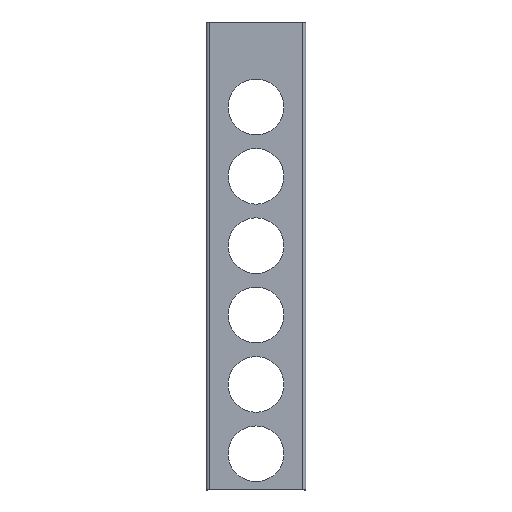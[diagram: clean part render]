
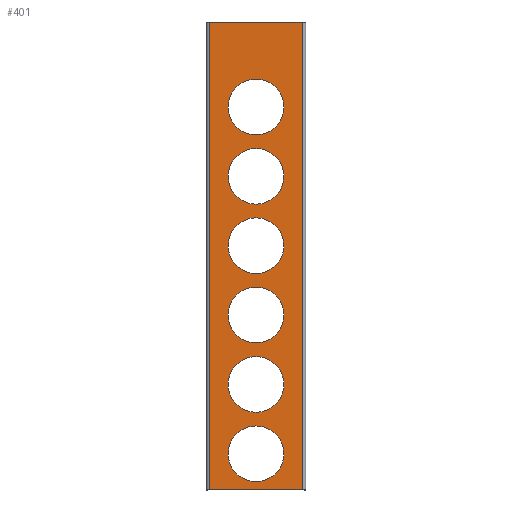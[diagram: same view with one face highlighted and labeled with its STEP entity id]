
A CAD part, top view. The second image highlights one B-rep face of the part: STEP entity #401.
In plain terms, the highlighted planar face has unit normal (0, 0, 1).
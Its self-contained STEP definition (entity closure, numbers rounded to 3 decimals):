
#3 = DIRECTION ( 'NONE',  ( 0., 0., -1. ) ) ;
#5 = DIRECTION ( 'NONE',  ( 1., 0., 0. ) ) ;
#8 = DIRECTION ( 'NONE',  ( 0., 0., -1. ) ) ;
#28 = DIRECTION ( 'NONE',  ( 1., 0., 0. ) ) ;
#34 = DIRECTION ( 'NONE',  ( 0., 0., -1. ) ) ;
#41 = DIRECTION ( 'NONE',  ( -1., 0., 0. ) ) ;
#44 = CARTESIAN_POINT ( 'NONE',  ( 47., 479., 40. ) ) ;
#64 = DIRECTION ( 'NONE',  ( 0., 0., -1. ) ) ;
#65 = CARTESIAN_POINT ( 'NONE',  ( -47., 0., 40. ) ) ;
#82 = DIRECTION ( 'NONE',  ( 1., 0., 0. ) ) ;
#85 = CARTESIAN_POINT ( 'NONE',  ( 0., 108., 40. ) ) ;
#86 = DIRECTION ( 'NONE',  ( 1., 0., 0. ) ) ;
#88 = DIRECTION ( 'NONE',  ( 1., 0., 0. ) ) ;
#90 = CARTESIAN_POINT ( 'NONE',  ( 0., 250., 40. ) ) ;
#93 = DIRECTION ( 'NONE',  ( 0., 0., -1. ) ) ;
#94 = CARTESIAN_POINT ( 'NONE',  ( 0., 179., 40. ) ) ;
#102 = DIRECTION ( 'NONE',  ( 0., 0., -1. ) ) ;
#105 = DIRECTION ( 'NONE',  ( 0., 0., -1. ) ) ;
#109 = DIRECTION ( 'NONE',  ( 1., 0., 0. ) ) ;
#110 = DIRECTION ( 'NONE',  ( 1., 0., 0. ) ) ;
#111 = CARTESIAN_POINT ( 'NONE',  ( -28.5, 321., 40. ) ) ;
#115 = CARTESIAN_POINT ( 'NONE',  ( 0., 321., 40. ) ) ;
#117 = CARTESIAN_POINT ( 'NONE',  ( 0., 392., 40. ) ) ;
#121 = CARTESIAN_POINT ( 'NONE',  ( -48., 479., 40. ) ) ;
#126 = CARTESIAN_POINT ( 'NONE',  ( 0., 321., 40. ) ) ;
#127 = DIRECTION ( 'NONE',  ( 1., 0., 0. ) ) ;
#128 = DIRECTION ( 'NONE',  ( 1., 0., 0. ) ) ;
#130 = DIRECTION ( 'NONE',  ( 0., -1., 0. ) ) ;
#137 = CARTESIAN_POINT ( 'NONE',  ( 0., 250., 40. ) ) ;
#140 = CARTESIAN_POINT ( 'NONE',  ( 0., 37., 40. ) ) ;
#141 = DIRECTION ( 'NONE',  ( 0., 0., -1. ) ) ;
#144 = DIRECTION ( 'NONE',  ( 0., 0., -1. ) ) ;
#147 = DIRECTION ( 'NONE',  ( 1., 0., 0. ) ) ;
#153 = DIRECTION ( 'NONE',  ( 0., 0., -1. ) ) ;
#173 = VERTEX_POINT ( 'NONE', #214 ) ;
#176 = VERTEX_POINT ( 'NONE', #326 ) ;
#179 = VERTEX_POINT ( 'NONE', #304 ) ;
#181 = VERTEX_POINT ( 'NONE', #336 ) ;
#183 = VERTEX_POINT ( 'NONE', #251 ) ;
#195 = VERTEX_POINT ( 'NONE', #287 ) ;
#199 = VERTEX_POINT ( 'NONE', #247 ) ;
#212 = VERTEX_POINT ( 'NONE', #238 ) ;
#214 = CARTESIAN_POINT ( 'NONE',  ( 28.5, 108., 40. ) ) ;
#215 = CARTESIAN_POINT ( 'NONE',  ( 28.5, 321., 40. ) ) ;
#216 = DIRECTION ( 'NONE',  ( 1., 0., 0. ) ) ;
#217 = CARTESIAN_POINT ( 'NONE',  ( 48., 0., 40. ) ) ;
#218 = CARTESIAN_POINT ( 'NONE',  ( -48., 0., 40. ) ) ;
#220 = VERTEX_POINT ( 'NONE', #319 ) ;
#222 = VERTEX_POINT ( 'NONE', #293 ) ;
#226 = DIRECTION ( 'NONE',  ( 0., 0., -1. ) ) ;
#234 = CARTESIAN_POINT ( 'NONE',  ( 0., 179., 40. ) ) ;
#235 = VERTEX_POINT ( 'NONE', #381 ) ;
#236 = DIRECTION ( 'NONE',  ( 1., 0., 0. ) ) ;
#238 = CARTESIAN_POINT ( 'NONE',  ( -28.5, 250., 40. ) ) ;
#247 = CARTESIAN_POINT ( 'NONE',  ( 28.5, 392., 40. ) ) ;
#250 = VERTEX_POINT ( 'NONE', #218 ) ;
#251 = CARTESIAN_POINT ( 'NONE',  ( 28.5, 179., 40. ) ) ;
#266 = CARTESIAN_POINT ( 'NONE',  ( 2., 239.5, 40. ) ) ;
#271 = VERTEX_POINT ( 'NONE', #377 ) ;
#287 = CARTESIAN_POINT ( 'NONE',  ( -28.5, 179., 40. ) ) ;
#289 = PLANE ( 'NONE',  #468 ) ;
#290 = CARTESIAN_POINT ( 'NONE',  ( 0., 392., 40. ) ) ;
#292 = DIRECTION ( 'NONE',  ( 0., 0., -1. ) ) ;
#293 = CARTESIAN_POINT ( 'NONE',  ( 48., 479., 40. ) ) ;
#295 = VERTEX_POINT ( 'NONE', #217 ) ;
#299 = VERTEX_POINT ( 'NONE', #215 ) ;
#303 = DIRECTION ( 'NONE',  ( 1., 0., 0. ) ) ;
#304 = CARTESIAN_POINT ( 'NONE',  ( -48., 479., 40. ) ) ;
#311 = CARTESIAN_POINT ( 'NONE',  ( 0., 37., 40. ) ) ;
#319 = CARTESIAN_POINT ( 'NONE',  ( 28.5, 250., 40. ) ) ;
#326 = CARTESIAN_POINT ( 'NONE',  ( -28.5, 37., 40. ) ) ;
#336 = CARTESIAN_POINT ( 'NONE',  ( 28.5, 37., 40. ) ) ;
#345 = CARTESIAN_POINT ( 'NONE',  ( 0., 108., 40. ) ) ;
#347 = DIRECTION ( 'NONE',  ( 1., 0., 0. ) ) ;
#357 = DIRECTION ( 'NONE',  ( 0., 0., 1. ) ) ;
#369 = CARTESIAN_POINT ( 'NONE',  ( 48., 0., 40. ) ) ;
#371 = VERTEX_POINT ( 'NONE', #111 ) ;
#377 = CARTESIAN_POINT ( 'NONE',  ( -28.5, 392., 40. ) ) ;
#381 = CARTESIAN_POINT ( 'NONE',  ( -28.5, 108., 40. ) ) ;
#385 = DIRECTION ( 'NONE',  ( 0., -1., 0. ) ) ;
#401 = ADVANCED_FACE ( 'NONE', ( #765, #761, #759, #757, #766, #763, #760 ), #289, .T. ) ;
#427 = AXIS2_PLACEMENT_3D ( 'NONE', #115, #64, #28 ) ;
#428 = AXIS2_PLACEMENT_3D ( 'NONE', #345, #3, #216 ) ;
#429 = AXIS2_PLACEMENT_3D ( 'NONE', #137, #144, #147 ) ;
#430 = AXIS2_PLACEMENT_3D ( 'NONE', #85, #105, #88 ) ;
#431 = AXIS2_PLACEMENT_3D ( 'NONE', #117, #93, #86 ) ;
#432 = AXIS2_PLACEMENT_3D ( 'NONE', #126, #8, #127 ) ;
#433 = AXIS2_PLACEMENT_3D ( 'NONE', #140, #102, #128 ) ;
#440 = AXIS2_PLACEMENT_3D ( 'NONE', #94, #141, #110 ) ;
#449 = AXIS2_PLACEMENT_3D ( 'NONE', #90, #153, #109 ) ;
#455 = AXIS2_PLACEMENT_3D ( 'NONE', #290, #292, #303 ) ;
#468 = AXIS2_PLACEMENT_3D ( 'NONE', #266, #357, #82 ) ;
#483 = EDGE_CURVE ( 'NONE', #183, #195, #716, .T. ) ;
#486 = EDGE_CURVE ( 'NONE', #199, #271, #713, .T. ) ;
#488 = EDGE_CURVE ( 'NONE', #181, #176, #710, .T. ) ;
#496 = EDGE_CURVE ( 'NONE', #220, #212, #694, .T. ) ;
#515 = EDGE_CURVE ( 'NONE', #179, #222, #654, .T. ) ;
#517 = EDGE_CURVE ( 'NONE', #222, #295, #649, .T. ) ;
#528 = EDGE_CURVE ( 'NONE', #295, #250, #623, .T. ) ;
#541 = EDGE_CURVE ( 'NONE', #176, #181, #593, .T. ) ;
#542 = EDGE_CURVE ( 'NONE', #179, #250, #604, .T. ) ;
#543 = EDGE_CURVE ( 'NONE', #195, #183, #590, .T. ) ;
#544 = EDGE_CURVE ( 'NONE', #371, #299, #589, .T. ) ;
#545 = EDGE_CURVE ( 'NONE', #271, #199, #587, .T. ) ;
#546 = EDGE_CURVE ( 'NONE', #212, #220, #585, .T. ) ;
#548 = EDGE_CURVE ( 'NONE', #299, #371, #583, .T. ) ;
#549 = EDGE_CURVE ( 'NONE', #173, #235, #582, .T. ) ;
#550 = AXIS2_PLACEMENT_3D ( 'NONE', #311, #34, #5 ) ;
#551 = EDGE_CURVE ( 'NONE', #235, #173, #579, .T. ) ;
#553 = AXIS2_PLACEMENT_3D ( 'NONE', #234, #226, #236 ) ;
#559 = ORIENTED_EDGE ( 'NONE', *, *, #515, .F. ) ;
#560 = ORIENTED_EDGE ( 'NONE', *, *, #528, .F. ) ;
#566 = ORIENTED_EDGE ( 'NONE', *, *, #541, .T. ) ;
#572 = ORIENTED_EDGE ( 'NONE', *, *, #496, .T. ) ;
#577 = ORIENTED_EDGE ( 'NONE', *, *, #542, .T. ) ;
#579 = CIRCLE ( 'NONE', #430, 28.5 ) ;
#582 = CIRCLE ( 'NONE', #428, 28.5 ) ;
#583 = CIRCLE ( 'NONE', #427, 28.5 ) ;
#585 = CIRCLE ( 'NONE', #429, 28.5 ) ;
#587 = CIRCLE ( 'NONE', #431, 28.5 ) ;
#589 = CIRCLE ( 'NONE', #432, 28.5 ) ;
#590 = CIRCLE ( 'NONE', #440, 28.5 ) ;
#593 = CIRCLE ( 'NONE', #433, 28.5 ) ;
#595 = ORIENTED_EDGE ( 'NONE', *, *, #517, .F. ) ;
#599 = VECTOR ( 'NONE', #130, 1000. ) ;
#604 = LINE ( 'NONE', #121, #599 ) ;
#622 = VECTOR ( 'NONE', #41, 1000. ) ;
#623 = LINE ( 'NONE', #65, #622 ) ;
#648 = VECTOR ( 'NONE', #385, 1000. ) ;
#649 = LINE ( 'NONE', #369, #648 ) ;
#654 = LINE ( 'NONE', #44, #665 ) ;
#665 = VECTOR ( 'NONE', #347, 1000. ) ;
#694 = CIRCLE ( 'NONE', #449, 28.5 ) ;
#710 = CIRCLE ( 'NONE', #550, 28.5 ) ;
#713 = CIRCLE ( 'NONE', #455, 28.5 ) ;
#716 = CIRCLE ( 'NONE', #553, 28.5 ) ;
#725 = EDGE_LOOP ( 'NONE', ( #851, #825 ) ) ;
#731 = ORIENTED_EDGE ( 'NONE', *, *, #549, .T. ) ;
#757 = FACE_BOUND ( 'NONE', #902, .T. ) ;
#759 = FACE_BOUND ( 'NONE', #904, .T. ) ;
#760 = FACE_BOUND ( 'NONE', #907, .T. ) ;
#761 = FACE_BOUND ( 'NONE', #917, .T. ) ;
#763 = FACE_BOUND ( 'NONE', #908, .T. ) ;
#765 = FACE_OUTER_BOUND ( 'NONE', #891, .T. ) ;
#766 = FACE_BOUND ( 'NONE', #725, .T. ) ;
#818 = ORIENTED_EDGE ( 'NONE', *, *, #551, .T. ) ;
#823 = ORIENTED_EDGE ( 'NONE', *, *, #546, .T. ) ;
#824 = ORIENTED_EDGE ( 'NONE', *, *, #488, .T. ) ;
#825 = ORIENTED_EDGE ( 'NONE', *, *, #545, .T. ) ;
#851 = ORIENTED_EDGE ( 'NONE', *, *, #486, .T. ) ;
#857 = ORIENTED_EDGE ( 'NONE', *, *, #543, .T. ) ;
#887 = ORIENTED_EDGE ( 'NONE', *, *, #483, .T. ) ;
#888 = ORIENTED_EDGE ( 'NONE', *, *, #548, .T. ) ;
#889 = ORIENTED_EDGE ( 'NONE', *, *, #544, .T. ) ;
#891 = EDGE_LOOP ( 'NONE', ( #559, #577, #560, #595 ) ) ;
#902 = EDGE_LOOP ( 'NONE', ( #888, #889 ) ) ;
#904 = EDGE_LOOP ( 'NONE', ( #887, #857 ) ) ;
#907 = EDGE_LOOP ( 'NONE', ( #731, #818 ) ) ;
#908 = EDGE_LOOP ( 'NONE', ( #572, #823 ) ) ;
#917 = EDGE_LOOP ( 'NONE', ( #824, #566 ) ) ;
